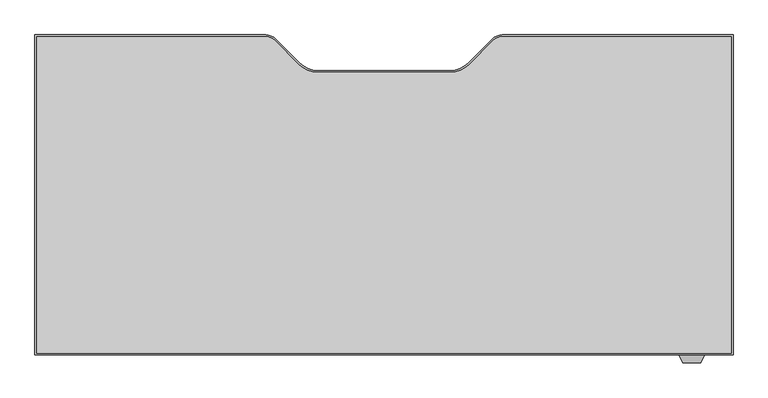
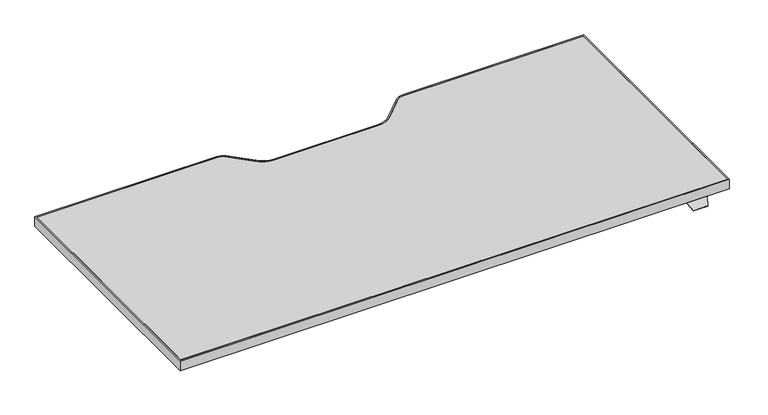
"""IFC4 building model written with IfcOpenShell, lengths in millimetres: furniture geometry, Steelcase Turnstone - Bivi - Height Adjustable Desk - T Base : 25D x 54.5W."""

from ifc_helpers import new_model, si_unit, point, frame, frame_2d, origin, place, context, project, spatial, polyline, circle_curve, trimmed, segment, composite_curve, outline, extrude, faceted_brep, source, transform, mapped, element, save


def furniture_36bf27de(model_context):
    return source(origin(), model_context, "Body", "SolidModel", [
        faceted_brep([(246.1677913, -415.0301693, 760.9984131), (246.1677913, -412.5074599, 760.9984131), (246.1677913, -412.5074599, 762.4), (246.1677913, -415.0490853, 762.4), (246.1677913, -416.3594921, 761.3004382), (246.1677913, -416.3594921, 759.8829789), (196.5948135, -415.0490853, 762.4), (196.5948135, -412.5074599, 762.4), (196.5948135, -412.5074599, 760.9984131), (196.5948135, -415.0301693, 760.9984131), (196.5948135, -416.3594921, 759.8829789), (196.5948135, -416.3594921, 761.3004382), (239.1858363, -431.3323429, 748.7367246), (203.5767685, -431.3323429, 748.7367246), (203.2173686, -430.5616074, 747.9659891), (239.5452362, -430.5616074, 747.9659891)], [[[0, 1, 2, 3, 4, 5]], [[6, 7, 8, 9, 10, 11]], [[12, 13, 14, 15]], [[9, 0, 5, 15, 14, 10]], [[1, 0, 9, 8]], [[2, 1, 8, 7]], [[3, 2, 7, 6]], [[3, 6, 11, 13, 12, 4]], [[5, 4, 12, 15]], [[11, 10, 14, 13]]]),
        extrude(outline(composite_curve([segment(polyline([(-1081.3785908, 219.9509147), (-623.9070191, 219.9509147)]), True, "CONTINUOUS"), segment(trimmed(circle_curve(frame_2d((-623.9070191, 191.2489147)), 28.702), [point((-623.9070191, 219.9509147))], [point((-603.6116402, 211.5442935))], False, "CARTESIAN"), True, "CONTINUOUS"), segment(polyline([(-603.6116402, 211.5442935), (-556.0972358, 164.0298891)]), True, "CONTINUOUS"), segment(trimmed(circle_curve(frame_2d((-520.1762113, 199.9509136)), 50.8), [point((-556.0972358, 164.0298891))], [point((-520.1762113, 149.1509136))], True, "CARTESIAN"), True, "CONTINUOUS"), segment(polyline([(-520.1762113, 149.1509136), (-258.2809703, 149.1509136)]), True, "CONTINUOUS"), segment(trimmed(circle_curve(frame_2d((-258.2809703, 199.9509136)), 50.8), [point((-258.2809703, 149.1509136))], [point((-222.3599458, 164.0298891))], True, "CARTESIAN"), True, "CONTINUOUS"), segment(polyline([(-222.3599458, 164.0298891), (-174.8455414, 211.5442935)]), True, "CONTINUOUS"), segment(trimmed(circle_curve(frame_2d((-154.5501625, 191.2489147)), 28.702), [point((-174.8455414, 211.5442935))], [point((-154.5501625, 219.9509147))], False, "CARTESIAN"), True, "CONTINUOUS"), segment(polyline([(-154.5501625, 219.9509147), (302.9214092, 219.9509147), (302.9214092, -415.0490853), (-1081.3785908, -415.0490853), (-1081.3785908, 219.9509147)]), True, "CONTINUOUS")], self_intersect=False), holes=[composite_curve([segment(polyline([(-1077.9987543, 216.6489147), (-1077.9987543, -411.7470853), (299.6194092, -411.7470853), (299.6194092, 216.6489147), (-154.5501625, 216.6489147)]), True, "CONTINUOUS"), segment(trimmed(circle_curve(frame_2d((-154.5501625, 191.2489147)), 25.4), [point((-154.5501625, 216.6489147))], [point((-172.5106748, 209.2094269))], True, "CARTESIAN"), True, "CONTINUOUS"), segment(polyline([(-172.5106748, 209.2094269), (-220.527602, 161.1924998)]), True, "CONTINUOUS"), segment(trimmed(circle_curve(frame_2d((-256.4486265, 197.1135242)), 50.8), [point((-220.527602, 161.1924998))], [point((-256.4486265, 146.3135242))], False, "CARTESIAN"), True, "CONTINUOUS"), segment(polyline([(-256.4486265, 146.3135242), (-389.2285908, 146.3135242), (-522.0085552, 146.3135242)]), True, "CONTINUOUS"), segment(trimmed(circle_curve(frame_2d((-522.0085552, 197.1135242)), 50.8), [point((-522.0085552, 146.3135242))], [point((-557.9295796, 161.1924998))], False, "CARTESIAN"), True, "CONTINUOUS"), segment(polyline([(-557.9295796, 161.1924998), (-605.9465068, 209.2094269)]), True, "CONTINUOUS"), segment(trimmed(circle_curve(frame_2d((-623.9070191, 191.2489147)), 25.4), [point((-605.9465068, 209.2094269))], [point((-623.9070191, 216.6489147))], True, "CARTESIAN"), True, "CONTINUOUS"), segment(polyline([(-623.9070191, 216.6489147), (-1077.9987543, 216.6489147)]), True, "CONTINUOUS")], self_intersect=False)]), frame((0.0, 0.0, 762.4), z_axis=(0.0, 0.0, 1.0), x_axis=(1.0, 0.0, 0.0)), (0.0, 0.0, 1.0), 25.0),
        extrude(outline(composite_curve([segment(polyline([(-1077.9987543, 216.6489147), (-623.9070191, 216.6489147)]), True, "CONTINUOUS"), segment(trimmed(circle_curve(frame_2d((-623.9070191, 191.2489147)), 25.4), [point((-623.9070191, 216.6489147))], [point((-605.9465068, 209.2094269))], False, "CARTESIAN"), True, "CONTINUOUS"), segment(polyline([(-605.9465068, 209.2094269), (-557.9295796, 161.1924998)]), True, "CONTINUOUS"), segment(trimmed(circle_curve(frame_2d((-522.0085552, 197.1135242)), 50.8), [point((-557.9295796, 161.1924998))], [point((-522.0085552, 146.3135242))], True, "CARTESIAN"), True, "CONTINUOUS"), segment(polyline([(-522.0085552, 146.3135242), (-389.2285908, 146.3135242), (-256.4486265, 146.3135242)]), True, "CONTINUOUS"), segment(trimmed(circle_curve(frame_2d((-256.4486265, 197.1135242)), 50.8), [point((-256.4486265, 146.3135242))], [point((-220.527602, 161.1924998))], True, "CARTESIAN"), True, "CONTINUOUS"), segment(polyline([(-220.527602, 161.1924998), (-172.5106748, 209.2094269)]), True, "CONTINUOUS"), segment(trimmed(circle_curve(frame_2d((-154.5501625, 191.2489147)), 25.4), [point((-172.5106748, 209.2094269))], [point((-154.5501625, 216.6489147))], False, "CARTESIAN"), True, "CONTINUOUS"), segment(polyline([(-154.5501625, 216.6489147), (299.6194092, 216.6489147), (299.6194092, -411.7470853), (-1077.9987543, -411.7470853), (-1077.9987543, 216.6489147)]), True, "CONTINUOUS")], self_intersect=False)), frame((0.0, 0.0, 762.4), z_axis=(0.0, 0.0, 1.0), x_axis=(1.0, 0.0, 0.0)), (0.0, 0.0, 1.0), 25.0),
    ])


if __name__ == "__main__":
    model = new_model("IFC4")
    model_context = context("Model", 3, world=origin())
    ifc_project = project(units=[si_unit("LENGTHUNIT", "METRE", prefix="MILLI")], contexts=[model_context])
    site = spatial("IfcSite", under=ifc_project)
    building = spatial("IfcBuilding", under=site)
    placement = place(None, origin())
    furniture_shape = furniture_36bf27de(model_context)
    element("IfcFurniture", 1, ObjectType="Steelcase Turnstone - Bivi - Height Adjustable Desk - T Base : 25D x 54.5W", at=placement, inside=building, context=model_context, shape_type="MappedRepresentation", body=[
        mapped(furniture_shape, transform((0.0, 0.0, 0.0), x_axis=(1.0, 0.0, 0.0), y_axis=(0.0, 1.0, 0.0), z_axis=(0.0, 0.0, 1.0))),
    ])
    save(model, "model.ifc")
